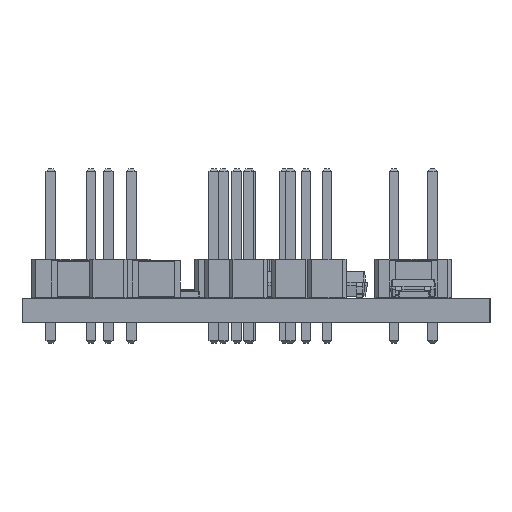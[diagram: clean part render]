
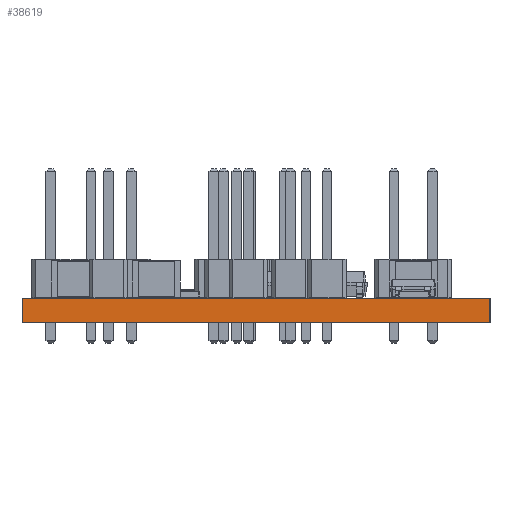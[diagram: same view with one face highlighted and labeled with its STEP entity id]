
A CAD part, left-side view. The second image highlights one B-rep face of the part: STEP entity #38619.
In plain terms, the highlighted planar face has unit normal (-1, 0, 0).
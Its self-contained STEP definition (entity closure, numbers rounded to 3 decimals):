
#38503 = EDGE_CURVE('',#38504,#38506,#38508,.T.);
#38504 = VERTEX_POINT('',#38505);
#38505 = CARTESIAN_POINT('',(54.229,-57.277,0.));
#38506 = VERTEX_POINT('',#38507);
#38507 = CARTESIAN_POINT('',(54.229,-57.277,1.6));
#38508 = SURFACE_CURVE('',#38509,(#38513,#38525),.PCURVE_S1.);
#38509 = LINE('',#38510,#38511);
#38510 = CARTESIAN_POINT('',(54.229,-57.277,0.));
#38511 = VECTOR('',#38512,1.);
#38512 = DIRECTION('',(0.,0.,1.));
#38513 = PCURVE('',#38514,#38519);
#38514 = PLANE('',#38515);
#38515 = AXIS2_PLACEMENT_3D('',#38516,#38517,#38518);
#38516 = CARTESIAN_POINT('',(54.229,-57.277,0.));
#38517 = DIRECTION('',(0.,1.,0.));
#38518 = DIRECTION('',(1.,0.,0.));
#38519 = DEFINITIONAL_REPRESENTATION('',(#38520),#38524);
#38520 = LINE('',#38521,#38522);
#38521 = CARTESIAN_POINT('',(0.,0.));
#38522 = VECTOR('',#38523,1.);
#38523 = DIRECTION('',(0.,-1.));
#38524 = ( GEOMETRIC_REPRESENTATION_CONTEXT(2) 
PARAMETRIC_REPRESENTATION_CONTEXT() REPRESENTATION_CONTEXT('2D SPACE',''
  ) );
#38525 = PCURVE('',#38526,#38531);
#38526 = PLANE('',#38527);
#38527 = AXIS2_PLACEMENT_3D('',#38528,#38529,#38530);
#38528 = CARTESIAN_POINT('',(54.229,-88.265,0.));
#38529 = DIRECTION('',(-1.,0.,0.));
#38530 = DIRECTION('',(0.,1.,0.));
#38531 = DEFINITIONAL_REPRESENTATION('',(#38532),#38536);
#38532 = LINE('',#38533,#38534);
#38533 = CARTESIAN_POINT('',(30.988,0.));
#38534 = VECTOR('',#38535,1.);
#38535 = DIRECTION('',(0.,-1.));
#38536 = ( GEOMETRIC_REPRESENTATION_CONTEXT(2) 
PARAMETRIC_REPRESENTATION_CONTEXT() REPRESENTATION_CONTEXT('2D SPACE',''
  ) );
#38554 = PLANE('',#38555);
#38555 = AXIS2_PLACEMENT_3D('',#38556,#38557,#38558);
#38556 = CARTESIAN_POINT('',(75.184,-72.771,1.6));
#38557 = DIRECTION('',(-0.,-0.,-1.));
#38558 = DIRECTION('',(-1.,0.,0.));
#38608 = PLANE('',#38609);
#38609 = AXIS2_PLACEMENT_3D('',#38610,#38611,#38612);
#38610 = CARTESIAN_POINT('',(75.184,-72.771,0.));
#38611 = DIRECTION('',(-0.,-0.,-1.));
#38612 = DIRECTION('',(-1.,0.,0.));
#38619 = ADVANCED_FACE('',(#38620),#38526,.T.);
#38620 = FACE_BOUND('',#38621,.T.);
#38621 = EDGE_LOOP('',(#38622,#38652,#38673,#38674));
#38622 = ORIENTED_EDGE('',*,*,#38623,.T.);
#38623 = EDGE_CURVE('',#38624,#38626,#38628,.T.);
#38624 = VERTEX_POINT('',#38625);
#38625 = CARTESIAN_POINT('',(54.229,-88.265,0.));
#38626 = VERTEX_POINT('',#38627);
#38627 = CARTESIAN_POINT('',(54.229,-88.265,1.6));
#38628 = SURFACE_CURVE('',#38629,(#38633,#38640),.PCURVE_S1.);
#38629 = LINE('',#38630,#38631);
#38630 = CARTESIAN_POINT('',(54.229,-88.265,0.));
#38631 = VECTOR('',#38632,1.);
#38632 = DIRECTION('',(0.,0.,1.));
#38633 = PCURVE('',#38526,#38634);
#38634 = DEFINITIONAL_REPRESENTATION('',(#38635),#38639);
#38635 = LINE('',#38636,#38637);
#38636 = CARTESIAN_POINT('',(0.,0.));
#38637 = VECTOR('',#38638,1.);
#38638 = DIRECTION('',(0.,-1.));
#38639 = ( GEOMETRIC_REPRESENTATION_CONTEXT(2) 
PARAMETRIC_REPRESENTATION_CONTEXT() REPRESENTATION_CONTEXT('2D SPACE',''
  ) );
#38640 = PCURVE('',#38641,#38646);
#38641 = PLANE('',#38642);
#38642 = AXIS2_PLACEMENT_3D('',#38643,#38644,#38645);
#38643 = CARTESIAN_POINT('',(96.139,-88.265,0.));
#38644 = DIRECTION('',(0.,-1.,0.));
#38645 = DIRECTION('',(-1.,0.,0.));
#38646 = DEFINITIONAL_REPRESENTATION('',(#38647),#38651);
#38647 = LINE('',#38648,#38649);
#38648 = CARTESIAN_POINT('',(41.91,0.));
#38649 = VECTOR('',#38650,1.);
#38650 = DIRECTION('',(0.,-1.));
#38651 = ( GEOMETRIC_REPRESENTATION_CONTEXT(2) 
PARAMETRIC_REPRESENTATION_CONTEXT() REPRESENTATION_CONTEXT('2D SPACE',''
  ) );
#38652 = ORIENTED_EDGE('',*,*,#38653,.T.);
#38653 = EDGE_CURVE('',#38626,#38506,#38654,.T.);
#38654 = SURFACE_CURVE('',#38655,(#38659,#38666),.PCURVE_S1.);
#38655 = LINE('',#38656,#38657);
#38656 = CARTESIAN_POINT('',(54.229,-88.265,1.6));
#38657 = VECTOR('',#38658,1.);
#38658 = DIRECTION('',(0.,1.,0.));
#38659 = PCURVE('',#38526,#38660);
#38660 = DEFINITIONAL_REPRESENTATION('',(#38661),#38665);
#38661 = LINE('',#38662,#38663);
#38662 = CARTESIAN_POINT('',(0.,-1.6));
#38663 = VECTOR('',#38664,1.);
#38664 = DIRECTION('',(1.,0.));
#38665 = ( GEOMETRIC_REPRESENTATION_CONTEXT(2) 
PARAMETRIC_REPRESENTATION_CONTEXT() REPRESENTATION_CONTEXT('2D SPACE',''
  ) );
#38666 = PCURVE('',#38554,#38667);
#38667 = DEFINITIONAL_REPRESENTATION('',(#38668),#38672);
#38668 = LINE('',#38669,#38670);
#38669 = CARTESIAN_POINT('',(20.955,-15.494));
#38670 = VECTOR('',#38671,1.);
#38671 = DIRECTION('',(0.,1.));
#38672 = ( GEOMETRIC_REPRESENTATION_CONTEXT(2) 
PARAMETRIC_REPRESENTATION_CONTEXT() REPRESENTATION_CONTEXT('2D SPACE',''
  ) );
#38673 = ORIENTED_EDGE('',*,*,#38503,.F.);
#38674 = ORIENTED_EDGE('',*,*,#38675,.F.);
#38675 = EDGE_CURVE('',#38624,#38504,#38676,.T.);
#38676 = SURFACE_CURVE('',#38677,(#38681,#38688),.PCURVE_S1.);
#38677 = LINE('',#38678,#38679);
#38678 = CARTESIAN_POINT('',(54.229,-88.265,0.));
#38679 = VECTOR('',#38680,1.);
#38680 = DIRECTION('',(0.,1.,0.));
#38681 = PCURVE('',#38526,#38682);
#38682 = DEFINITIONAL_REPRESENTATION('',(#38683),#38687);
#38683 = LINE('',#38684,#38685);
#38684 = CARTESIAN_POINT('',(0.,0.));
#38685 = VECTOR('',#38686,1.);
#38686 = DIRECTION('',(1.,0.));
#38687 = ( GEOMETRIC_REPRESENTATION_CONTEXT(2) 
PARAMETRIC_REPRESENTATION_CONTEXT() REPRESENTATION_CONTEXT('2D SPACE',''
  ) );
#38688 = PCURVE('',#38608,#38689);
#38689 = DEFINITIONAL_REPRESENTATION('',(#38690),#38694);
#38690 = LINE('',#38691,#38692);
#38691 = CARTESIAN_POINT('',(20.955,-15.494));
#38692 = VECTOR('',#38693,1.);
#38693 = DIRECTION('',(0.,1.));
#38694 = ( GEOMETRIC_REPRESENTATION_CONTEXT(2) 
PARAMETRIC_REPRESENTATION_CONTEXT() REPRESENTATION_CONTEXT('2D SPACE',''
  ) );
